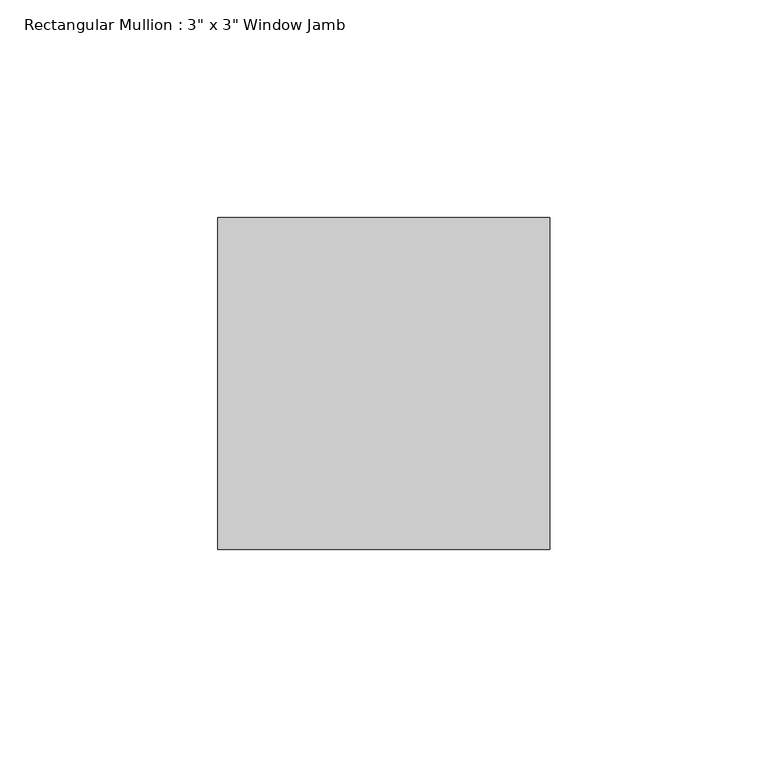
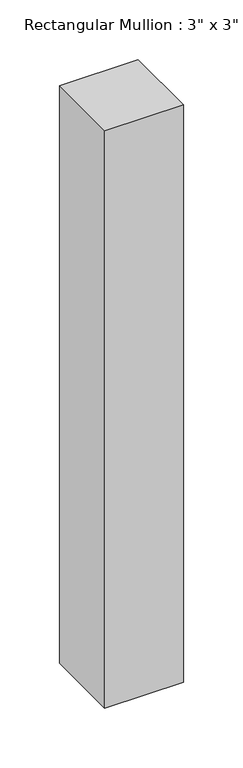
"""IFC4 building model written with IfcOpenShell, lengths in millimetres: member geometry."""

from ifc_helpers import new_model, si_unit, frame, origin, place, context, project, spatial, polyline, outline, extrude, source, transform, mapped, element, save


def member_e5bd3e3e(model_context):
    return source(origin(), model_context, "Body", "SweptSolid", [
        extrude(outline(polyline([(0.0, 50.8), (0.0, -25.4), (-76.2, -25.4), (-76.2, 50.8), (0.0, 50.8)])), frame((0.0, 0.0, -591.8537771), z_axis=(0.0, 0.0, 1.0), x_axis=(1.0, 0.0, 0.0)), (0.0, 0.0, 1.0), 591.8537771),
    ])


if __name__ == "__main__":
    model = new_model("IFC4")
    model_context = context("Model", 3, world=origin())
    ifc_project = project(units=[si_unit("LENGTHUNIT", "METRE", prefix="MILLI")], contexts=[model_context])
    site = spatial("IfcSite", under=ifc_project)
    building = spatial("IfcBuilding", under=site)
    placement = place(None, origin())
    member_shape = member_e5bd3e3e(model_context)
    element("IfcMember", 1, ObjectType="Rectangular Mullion : 3\" x 3\" Window Jamb", at=placement, inside=building, context=model_context, shape_type="MappedRepresentation", body=[
        mapped(member_shape, transform((0.0, 0.0, 0.0), x_axis=(1.0, 0.0, 0.0), y_axis=(0.0, 1.0, 0.0), z_axis=(0.0, 0.0, 1.0))),
    ])
    save(model, "model.ifc")
